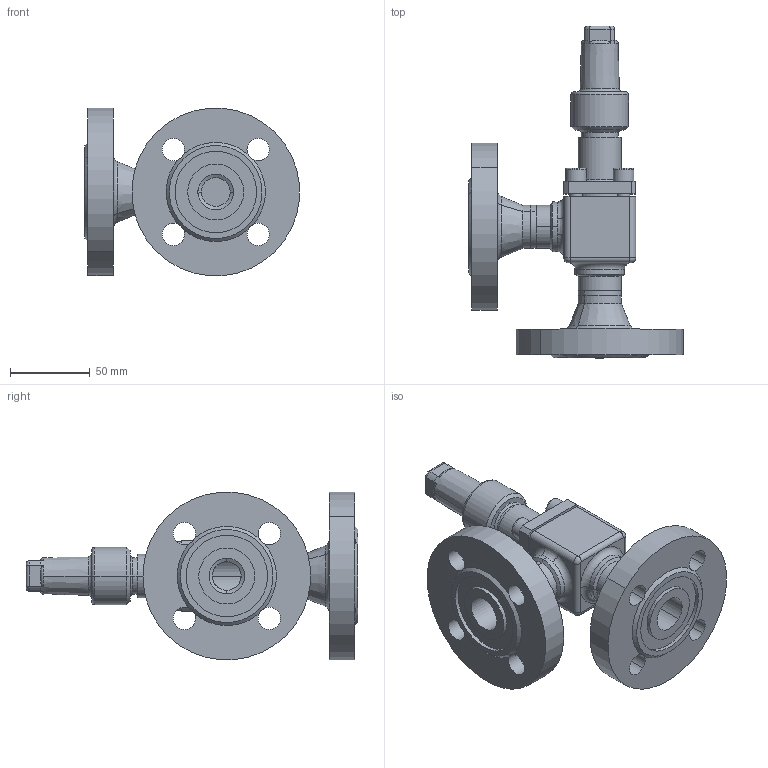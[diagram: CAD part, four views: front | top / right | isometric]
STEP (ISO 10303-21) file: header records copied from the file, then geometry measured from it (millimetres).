
FILE_DESCRIPTION (( 'STEP AP214' ), '1' );
FILE_NAME ('AVR96420-DN020_DIN-FL-N_PS40.STEP', '2006-05-02T08:23:32', ( 'Herr Grams' ), ( 'AWP GmbH' ), 'SwSTEP 2.0', 'SolidWorks 2002296', '' );
FILE_SCHEMA (( 'AUTOMOTIVE_DESIGN' ));
Length unit declared in the file: millimetre
Products named in the file (10): AVR96420-DN020_DIN-FL-N_PS40; AVR96300E11_Deck+Schr-DN20_Standard; Zylinderschraube-DIN912_M 8x 20; Deckel96300E11-DN20_PS40_Standard; Geh-kpl96420E11-DN20_PS40_DIN-FL_Standard; Gehäuse96400E11-DN20_PS40_R1_Standard; Flansch-DIN2635-Nut_PS40_DIN-Flansch-DN020_PS40-Nut; bead964-DN020-2_Standard; bead964-DN020-1_Standard; Kappe96300E10_DN6-20_Standard
Assembly tree (13 placements, depth 3):
  AVR96420-DN020_DIN-FL-N_PS40
    AVR96300E11_Deck+Schr-DN20_Standard
      Zylinderschraube-DIN912_M 8x 20  x4
      Deckel96300E11-DN20_PS40_Standard
    Geh-kpl96420E11-DN20_PS40_DIN-FL_Standard
      bead964-DN020-1_Standard
      Gehäuse96400E11-DN20_PS40_R1_Standard
      Flansch-DIN2635-Nut_PS40_DIN-Flansch-DN020_PS40-Nut  x2
      bead964-DN020-2_Standard
    Kappe96300E10_DN6-20_Standard
Bounding box: 134.3 x 207.5 x 104.6 mm (x, y, z)
Volume: 416107.3 mm3; surface area: 102367.5 mm2
Topology: 11 solids, 11 shells, 314 faces, 725 edges, 446 vertices
Faces by surface type: cylinder 122, plane 93, cone 52, torus 36, bspline 11
Entity records: 12063 total; most frequent: CARTESIAN_POINT 5962, DIRECTION 1180, ORIENTED_EDGE 1058, EDGE_CURVE 529, AXIS2_PLACEMENT_3D 492, VERTEX_POINT 322, EDGE_LOOP 261, CIRCLE 257
